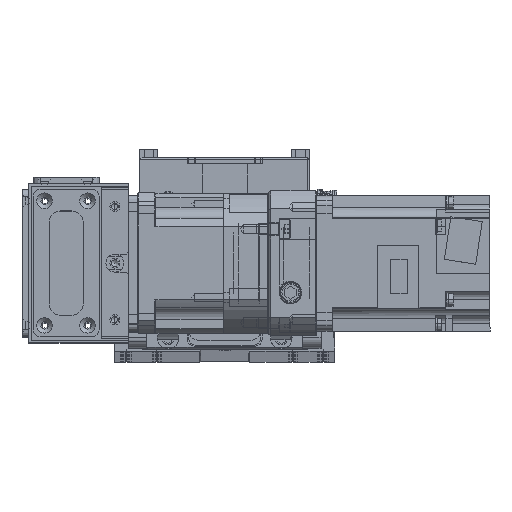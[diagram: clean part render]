
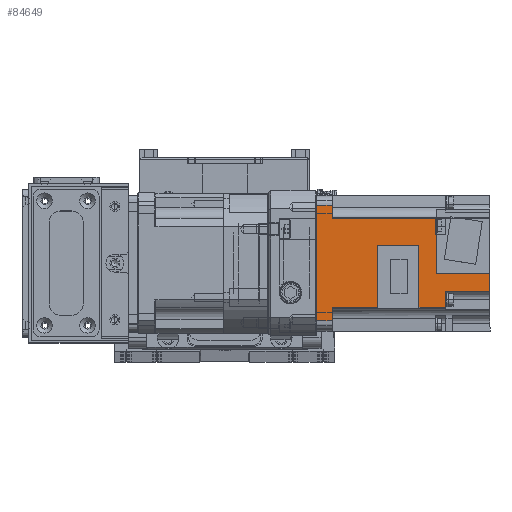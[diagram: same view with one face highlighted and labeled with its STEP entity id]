
A CAD part, top view. The second image highlights one B-rep face of the part: STEP entity #84649.
In plain terms, the highlighted planar face has unit normal (0, 0, 1) as drawn and (0, -1, 0) by its records, which use the part's own axes.
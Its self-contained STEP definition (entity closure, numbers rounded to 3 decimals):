
#6275=FACE_OUTER_BOUND('',#11253,.T.);
#11253=EDGE_LOOP('',(#70006,#70007,#70008,#70009,#70010,#70011,#70012,#70013,
#70014,#70015,#70016,#70017,#70018,#70019,#70020,#70021,#70022,#70023,#70024,
#70025));
#20515=LINE('',#138391,#29621);
#20545=LINE('',#138497,#29651);
#20548=LINE('',#138509,#29654);
#20590=LINE('',#138639,#29696);
#20651=LINE('',#138851,#29757);
#20652=LINE('',#138856,#29758);
#20653=LINE('',#138858,#29759);
#20654=LINE('',#138859,#29760);
#20655=LINE('',#138861,#29761);
#20656=LINE('',#138863,#29762);
#20657=LINE('',#138865,#29763);
#20658=LINE('',#138867,#29764);
#20659=LINE('',#138869,#29765);
#20660=LINE('',#138871,#29766);
#20661=LINE('',#138873,#29767);
#20662=LINE('',#138875,#29768);
#20663=LINE('',#138876,#29769);
#20664=LINE('',#138878,#29770);
#20665=LINE('',#138880,#29771);
#20666=LINE('',#138881,#29772);
#29621=VECTOR('',#109939,51.);
#29651=VECTOR('',#110027,3.41);
#29654=VECTOR('',#110036,2.444);
#29696=VECTOR('',#110156,7.8);
#29757=VECTOR('',#110393,5.941);
#29758=VECTOR('',#110400,7.);
#29759=VECTOR('',#110403,0.905);
#29760=VECTOR('',#110404,45.6);
#29761=VECTOR('',#110405,7.);
#29762=VECTOR('',#110406,5.941);
#29763=VECTOR('',#110407,19.9);
#29764=VECTOR('',#110408,27.559);
#29765=VECTOR('',#110409,18.35);
#29766=VECTOR('',#110410,27.559);
#29767=VECTOR('',#110411,11.85);
#29768=VECTOR('',#110412,7.059);
#29769=VECTOR('',#110413,19.5);
#29770=VECTOR('',#110414,23.5);
#29771=VECTOR('',#110415,17.5);
#29772=VECTOR('',#110416,0.5);
#38800=VERTEX_POINT('',#138388);
#38801=VERTEX_POINT('',#138390);
#38846=VERTEX_POINT('',#138493);
#38848=VERTEX_POINT('',#138496);
#38853=VERTEX_POINT('',#138506);
#38854=VERTEX_POINT('',#138508);
#38902=VERTEX_POINT('',#138636);
#38903=VERTEX_POINT('',#138638);
#38965=VERTEX_POINT('',#138848);
#38966=VERTEX_POINT('',#138850);
#38968=VERTEX_POINT('',#138860);
#38969=VERTEX_POINT('',#138862);
#38970=VERTEX_POINT('',#138864);
#38971=VERTEX_POINT('',#138866);
#38972=VERTEX_POINT('',#138868);
#38973=VERTEX_POINT('',#138870);
#38974=VERTEX_POINT('',#138872);
#38975=VERTEX_POINT('',#138874);
#38976=VERTEX_POINT('',#138877);
#38977=VERTEX_POINT('',#138879);
#49565=EDGE_CURVE('',#38800,#38801,#20515,.T.);
#49617=EDGE_CURVE('',#38846,#38848,#20545,.T.);
#49623=EDGE_CURVE('',#38853,#38854,#20548,.T.);
#49688=EDGE_CURVE('',#38902,#38903,#20590,.T.);
#49793=EDGE_CURVE('',#38966,#38965,#20651,.T.);
#49796=EDGE_CURVE('',#38965,#38801,#20652,.T.);
#49797=EDGE_CURVE('',#38854,#38846,#20653,.T.);
#49798=EDGE_CURVE('',#38966,#38853,#20654,.T.);
#49799=EDGE_CURVE('',#38968,#38800,#20655,.T.);
#49800=EDGE_CURVE('',#38968,#38969,#20656,.T.);
#49801=EDGE_CURVE('',#38969,#38970,#20657,.T.);
#49802=EDGE_CURVE('',#38970,#38971,#20658,.T.);
#49803=EDGE_CURVE('',#38971,#38972,#20659,.T.);
#49804=EDGE_CURVE('',#38972,#38973,#20660,.T.);
#49805=EDGE_CURVE('',#38974,#38973,#20661,.T.);
#49806=EDGE_CURVE('',#38975,#38974,#20662,.T.);
#49807=EDGE_CURVE('',#38903,#38975,#20663,.T.);
#49808=EDGE_CURVE('',#38902,#38976,#20664,.T.);
#49809=EDGE_CURVE('',#38977,#38976,#20665,.T.);
#49810=EDGE_CURVE('',#38848,#38977,#20666,.T.);
#70006=ORIENTED_EDGE('',*,*,#49797,.F.);
#70007=ORIENTED_EDGE('',*,*,#49623,.F.);
#70008=ORIENTED_EDGE('',*,*,#49798,.F.);
#70009=ORIENTED_EDGE('',*,*,#49793,.T.);
#70010=ORIENTED_EDGE('',*,*,#49796,.T.);
#70011=ORIENTED_EDGE('',*,*,#49565,.F.);
#70012=ORIENTED_EDGE('',*,*,#49799,.F.);
#70013=ORIENTED_EDGE('',*,*,#49800,.T.);
#70014=ORIENTED_EDGE('',*,*,#49801,.T.);
#70015=ORIENTED_EDGE('',*,*,#49802,.T.);
#70016=ORIENTED_EDGE('',*,*,#49803,.T.);
#70017=ORIENTED_EDGE('',*,*,#49804,.T.);
#70018=ORIENTED_EDGE('',*,*,#49805,.F.);
#70019=ORIENTED_EDGE('',*,*,#49806,.F.);
#70020=ORIENTED_EDGE('',*,*,#49807,.F.);
#70021=ORIENTED_EDGE('',*,*,#49688,.F.);
#70022=ORIENTED_EDGE('',*,*,#49808,.T.);
#70023=ORIENTED_EDGE('',*,*,#49809,.F.);
#70024=ORIENTED_EDGE('',*,*,#49810,.F.);
#70025=ORIENTED_EDGE('',*,*,#49617,.F.);
#80401=PLANE('',#92417);
#84649=ADVANCED_FACE('',(#6275),#80401,.F.);
#92417=AXIS2_PLACEMENT_3D('',#138857,#110401,#110402);
#109939=DIRECTION('',(1.,0.,0.));
#110027=DIRECTION('',(-1.,0.,0.));
#110036=DIRECTION('',(-1.,0.,0.));
#110156=DIRECTION('',(-1.,0.,0.));
#110393=DIRECTION('',(1.,0.,0.));
#110400=DIRECTION('',(0.,0.,1.));
#110401=DIRECTION('center_axis',(0.,1.,0.));
#110402=DIRECTION('ref_axis',(-1.,0.,0.));
#110403=DIRECTION('',(-1.,0.,0.));
#110404=DIRECTION('',(0.,0.,-1.));
#110405=DIRECTION('',(0.,0.,1.));
#110406=DIRECTION('',(1.,0.,0.));
#110407=DIRECTION('',(0.,0.,-1.));
#110408=DIRECTION('',(1.,0.,0.));
#110409=DIRECTION('',(0.,0.,-1.));
#110410=DIRECTION('',(-1.,0.,0.));
#110411=DIRECTION('',(0.,0.,1.));
#110412=DIRECTION('',(-1.,0.,0.));
#110413=DIRECTION('',(0.,0.,1.));
#110414=DIRECTION('',(0.,0.,1.));
#110415=DIRECTION('',(-1.,0.,0.));
#110416=DIRECTION('',(0.,0.,-1.));
#138388=CARTESIAN_POINT('',(-25.5,-30.,0.));
#138390=CARTESIAN_POINT('',(25.5,-30.,0.));
#138391=CARTESIAN_POINT('',(-25.5,-30.,0.));
#138493=CARTESIAN_POINT('',(16.21,-30.,-52.6));
#138496=CARTESIAN_POINT('',(12.8,-30.,-52.6));
#138497=CARTESIAN_POINT('',(16.21,-30.,-52.6));
#138506=CARTESIAN_POINT('',(19.559,-30.,-52.6));
#138508=CARTESIAN_POINT('',(17.115,-30.,-52.6));
#138509=CARTESIAN_POINT('',(19.559,-30.,-52.6));
#138636=CARTESIAN_POINT('',(-4.7,-30.,-76.6));
#138638=CARTESIAN_POINT('',(-12.5,-30.,-76.6));
#138639=CARTESIAN_POINT('',(-4.7,-30.,-76.6));
#138848=CARTESIAN_POINT('',(25.5,-30.,-7.));
#138850=CARTESIAN_POINT('',(19.559,-30.,-7.));
#138851=CARTESIAN_POINT('',(19.559,-30.,-7.));
#138856=CARTESIAN_POINT('',(25.5,-30.,-7.));
#138857=CARTESIAN_POINT('Origin',(0.,-30.,-3.9));
#138858=CARTESIAN_POINT('',(17.115,-30.,-52.6));
#138859=CARTESIAN_POINT('',(19.559,-30.,-7.));
#138860=CARTESIAN_POINT('',(-25.5,-30.,-7.));
#138861=CARTESIAN_POINT('',(-25.5,-30.,-7.));
#138862=CARTESIAN_POINT('',(-19.559,-30.,-7.));
#138863=CARTESIAN_POINT('',(-25.5,-30.,-7.));
#138864=CARTESIAN_POINT('',(-19.559,-30.,-26.9));
#138865=CARTESIAN_POINT('',(-19.559,-30.,-7.));
#138866=CARTESIAN_POINT('',(8.,-30.,-26.9));
#138867=CARTESIAN_POINT('',(-19.559,-30.,-26.9));
#138868=CARTESIAN_POINT('',(8.,-30.,-45.25));
#138869=CARTESIAN_POINT('',(8.,-30.,-26.9));
#138870=CARTESIAN_POINT('',(-19.559,-30.,-45.25));
#138871=CARTESIAN_POINT('',(8.,-30.,-45.25));
#138872=CARTESIAN_POINT('',(-19.559,-30.,-57.1));
#138873=CARTESIAN_POINT('',(-19.559,-30.,-57.1));
#138874=CARTESIAN_POINT('',(-12.5,-30.,-57.1));
#138875=CARTESIAN_POINT('',(-12.5,-30.,-57.1));
#138876=CARTESIAN_POINT('',(-12.5,-30.,-76.6));
#138877=CARTESIAN_POINT('',(-4.7,-30.,-53.1));
#138878=CARTESIAN_POINT('',(-4.7,-30.,-76.6));
#138879=CARTESIAN_POINT('',(12.8,-30.,-53.1));
#138880=CARTESIAN_POINT('',(12.8,-30.,-53.1));
#138881=CARTESIAN_POINT('',(12.8,-30.,-52.6));
